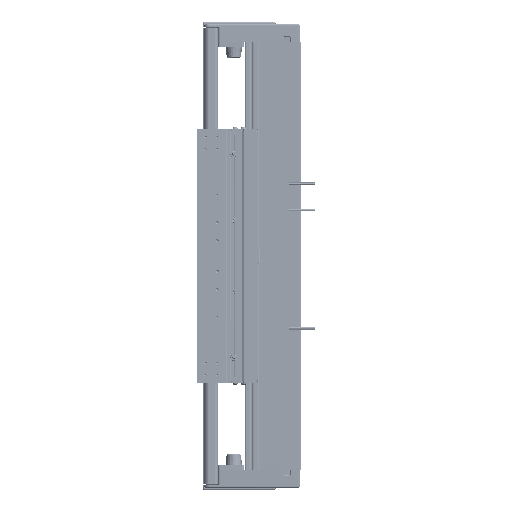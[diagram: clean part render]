
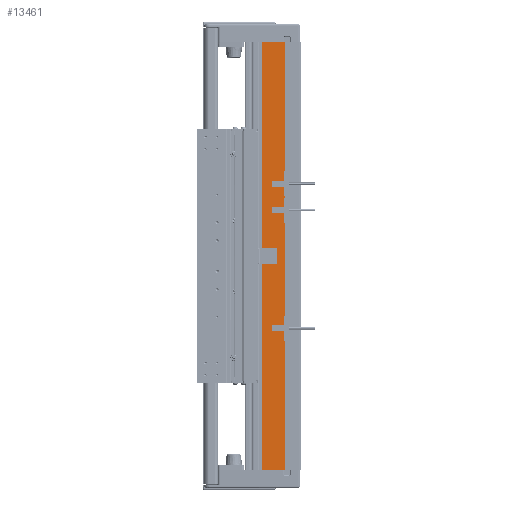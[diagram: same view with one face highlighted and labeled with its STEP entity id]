
A CAD part, left-side view. The second image highlights one B-rep face of the part: STEP entity #13461.
In plain terms, the highlighted planar face has unit normal (-1, 0, 0).
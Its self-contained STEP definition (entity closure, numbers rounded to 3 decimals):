
#4065 = CARTESIAN_POINT ( 'NONE',  ( -97.5, 36.95, 210. ) ) ;
#5631 = EDGE_CURVE ( 'NONE', #122871, #106884, #64169, .T. ) ;
#8667 = CARTESIAN_POINT ( 'NONE',  ( -97.5, 36.95, 210. ) ) ;
#8973 = VECTOR ( 'NONE', #24970, 1000. ) ;
#9738 = EDGE_LOOP ( 'NONE', ( #48679, #100477, #22240, #101023 ) ) ;
#12863 = CARTESIAN_POINT ( 'NONE',  ( -97.5, 14.45, -210. ) ) ;
#13461 = ADVANCED_FACE ( 'NONE', ( #28477 ), #96396, .F. ) ;
#17847 = CARTESIAN_POINT ( 'NONE',  ( -97.5, 36.95, -210. ) ) ;
#22240 = ORIENTED_EDGE ( 'NONE', *, *, #36334, .F. ) ;
#24970 = DIRECTION ( 'NONE',  ( 0., 0., -1. ) ) ;
#28477 = FACE_OUTER_BOUND ( 'NONE', #9738, .T. ) ;
#30175 = DIRECTION ( 'NONE',  ( 0., -1., 0. ) ) ;
#31703 = VECTOR ( 'NONE', #104486, 1000. ) ;
#36334 = EDGE_CURVE ( 'NONE', #109434, #65325, #89579, .T. ) ;
#38271 = DIRECTION ( 'NONE',  ( 0., 1., 0. ) ) ;
#46065 = VECTOR ( 'NONE', #74633, 1000. ) ;
#46486 = CARTESIAN_POINT ( 'NONE',  ( -97.5, 14.45, 210. ) ) ;
#48679 = ORIENTED_EDGE ( 'NONE', *, *, #5631, .T. ) ;
#52559 = EDGE_CURVE ( 'NONE', #109434, #122871, #55445, .T. ) ;
#53314 = EDGE_CURVE ( 'NONE', #65325, #106884, #85010, .T. ) ;
#55445 = LINE ( 'NONE', #94682, #31703 ) ;
#56525 = CARTESIAN_POINT ( 'NONE',  ( -97.5, 36.95, 210. ) ) ;
#64169 = LINE ( 'NONE', #113246, #46065 ) ;
#65325 = VERTEX_POINT ( 'NONE', #91049 ) ;
#74633 = DIRECTION ( 'NONE',  ( 0., -1., 0. ) ) ;
#81809 = AXIS2_PLACEMENT_3D ( 'NONE', #56525, #127744, #38271 ) ;
#85010 = LINE ( 'NONE', #46486, #8973 ) ;
#89579 = LINE ( 'NONE', #8667, #101951 ) ;
#91049 = CARTESIAN_POINT ( 'NONE',  ( -97.5, 14.45, 210. ) ) ;
#94682 = CARTESIAN_POINT ( 'NONE',  ( -97.5, 36.95, 210. ) ) ;
#96396 = PLANE ( 'NONE',  #81809 ) ;
#100477 = ORIENTED_EDGE ( 'NONE', *, *, #53314, .F. ) ;
#101023 = ORIENTED_EDGE ( 'NONE', *, *, #52559, .T. ) ;
#101951 = VECTOR ( 'NONE', #30175, 1000. ) ;
#104486 = DIRECTION ( 'NONE',  ( 0., 0., -1. ) ) ;
#106884 = VERTEX_POINT ( 'NONE', #12863 ) ;
#109434 = VERTEX_POINT ( 'NONE', #4065 ) ;
#113246 = CARTESIAN_POINT ( 'NONE',  ( -97.5, 36.95, -210. ) ) ;
#122871 = VERTEX_POINT ( 'NONE', #17847 ) ;
#127744 = DIRECTION ( 'NONE',  ( 1., 0., 0. ) ) ;
